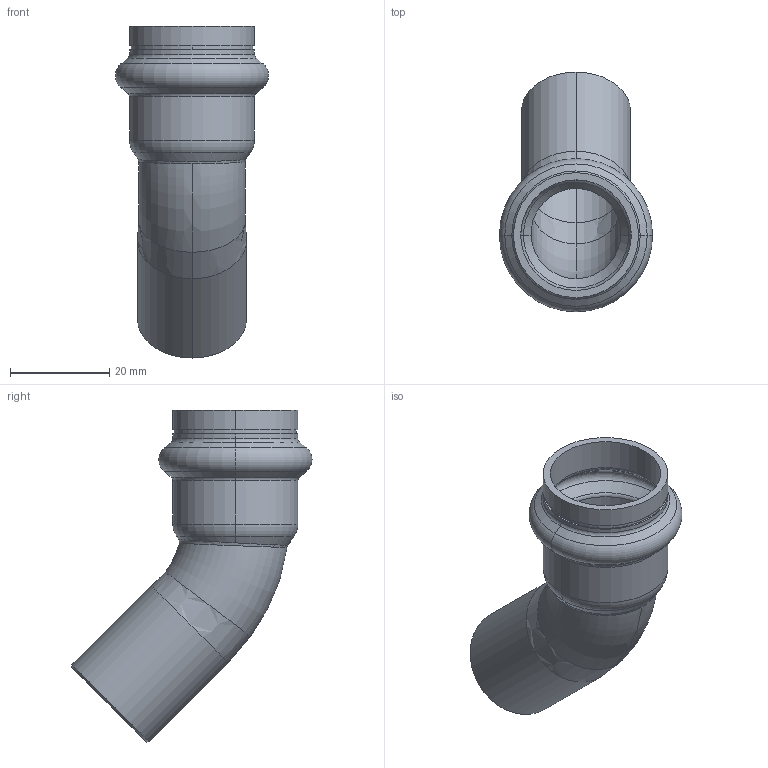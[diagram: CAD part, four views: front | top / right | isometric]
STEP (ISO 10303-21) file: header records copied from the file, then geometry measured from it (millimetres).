
FILE_DESCRIPTION (( 'STEP AP203' ), '1' );
FILE_NAME ('SP5040 Ø22.STEP', '2017-04-24T08:09:54', ( '' ), ( '' ), 'SwSTEP 2.0', 'SolidWorks 2016', '' );
FILE_SCHEMA (( 'CONFIG_CONTROL_DESIGN' ));
Length unit declared in the file: millimetre
Products named in the file (1): SP5040 ﾘ22
Bounding box: 30.9 x 48.4 x 66.95 mm (x, y, z)
Volume: 7814.5 mm3; surface area: 10125.2 mm2
Topology: 1 solids, 1 shells, 60 faces, 126 edges, 70 vertices
Faces by surface type: torus 20, cylinder 16, cone 14, bspline 6, plane 4
Entity records: 2448 total; most frequent: CARTESIAN_POINT 1086, DIRECTION 300, ORIENTED_EDGE 252, AXIS2_PLACEMENT_3D 135, EDGE_CURVE 126, CIRCLE 80, VERTEX_POINT 70, EDGE_LOOP 64
